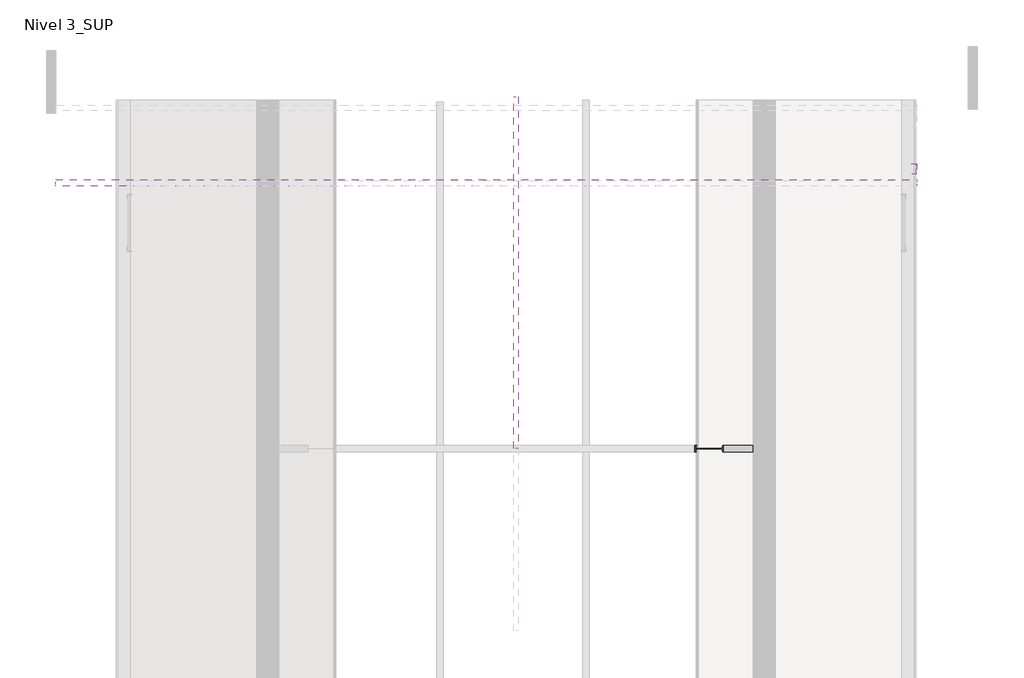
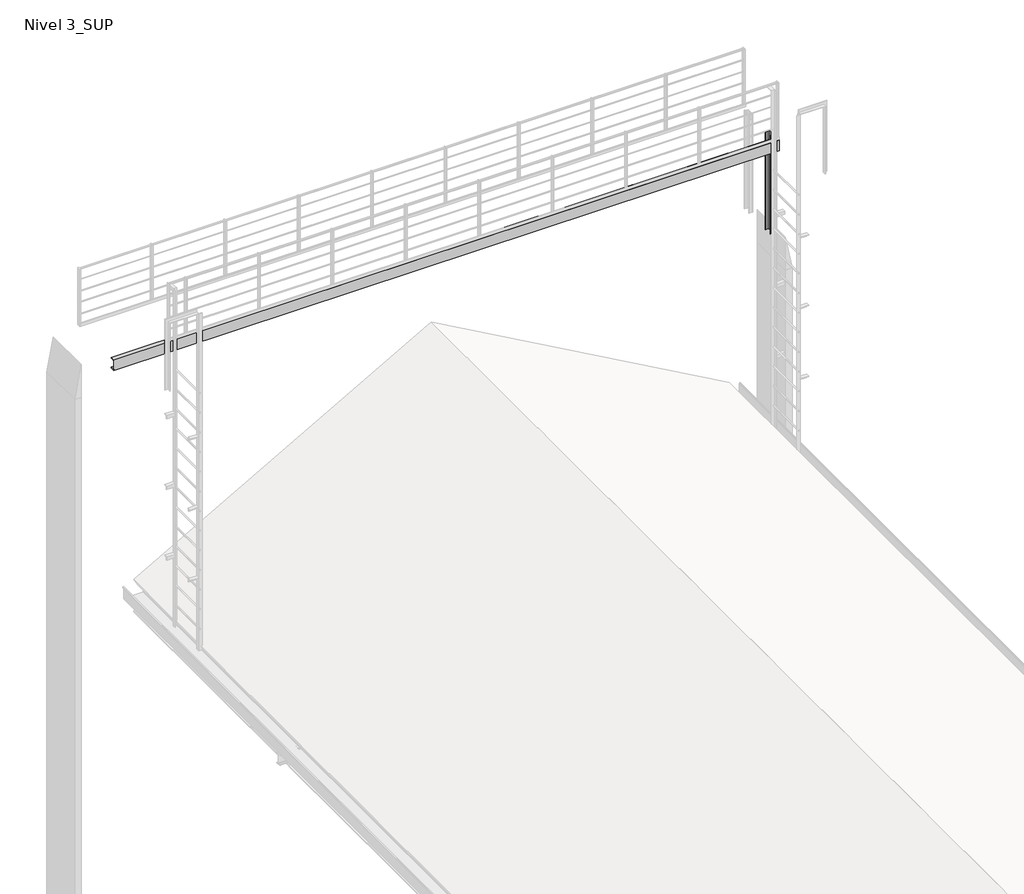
# One storey, part 9 of 10: 4 beams, 1 column.
"""IFC4 building model written with IfcOpenShell, lengths in millimetres."""

from ifc_helpers import new_model, si_unit, point, frame, frame_2d, origin, place, context, project, spatial, polyline, circle_curve, ellipse_curve, trimmed, segment, composite_curve, outline, extrude, transform, mapped, element, save
from ifc_brep_helpers import plane_surface, cylinder_surface, revolved_surface, advanced_brep
from components import madera_50x50mm_8a6b8b44, upe160_38f508eb

model = new_model("IFC4")

# Units and contexts
model_context = context("Model", 3, world=origin())
ifc_project = project(units=[si_unit("LENGTHUNIT", "METRE", prefix="MILLI")], contexts=[model_context])

# Site, building, storey
site = spatial("IfcSite", under=ifc_project)
building = spatial("IfcBuilding", under=site)
storey = spatial("IfcBuildingStorey", under=building, Name="Nivel 3_SUP", Elevation=13230.0)

# Beams
placement = place(None, origin())
element("IfcBeam", 1, ObjectType="IPN - Secciones en I con alas cónicas : IPN 160", at=placement, inside=storey, context=model_context, shape_type="AdvancedBrep", body=[
    advanced_brep(
    [(10494.5684321, 9814.6072273, 15557.5050493), (10496.3415234, 9814.6072273, 15560.6437982), (10498.1925032, 9817.8803655, 15563.9204261), (10499.9243319, 9843.0307088, 15566.9861314), (10502.9930614, 9848.4572273, 15572.4184356), (10494.5684321, 9848.4572273, 15557.5050493), (10569.87885, 9814.6072273, 15514.9619045), (10569.87885, 9814.6072273, 15519.1022796), (10566.1155514, 9817.8803655, 15525.5504349), (10562.5945033, 9843.0307088, 15531.5835105), (10556.3553503, 9848.4572273, 15542.2738734), (10556.3553503, 9848.4572273, 15522.6013815), (10562.5945033, 9843.0307088, 15519.07686), (10566.1155514, 9817.8803655, 15517.0878064)],
    [
        (0, 1),
        (1, 2, circle_curve(frame((10496.3415234, 9818.4072273, 15560.6437982), z_axis=(-0.8706797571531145, 0.0, 0.49185034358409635), x_axis=(0.0, 1.0, 0.0)), 3.8)),
        (2, 3),
        (3, 4, circle_curve(frame((10502.9930614, 9842.1572273, 15572.4184356), z_axis=(0.8706797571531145, 0.0, -0.49185034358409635), x_axis=(0.0, 1.0, 0.0)), 6.3)),
        (4, 5),
        (5, 0),
        (0, 6),
        (6, 7),
        (7, 1),
        (7, 8, ellipse_curve(frame((10569.87885, 9818.4072273, 15519.1022796), z_axis=(-0.8636695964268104, 0.0, -0.5040583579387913), x_axis=(-0.5040583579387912, 0.0, 0.8636695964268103)), 7.5388096, 3.8)),
        (8, 2),
        (8, 9),
        (9, 3),
        (9, 10, ellipse_curve(frame((10556.3553503, 9842.1572273, 15542.2738734), z_axis=(0.8636695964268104, 0.0, 0.5040583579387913), x_axis=(0.5040583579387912, 0.0, -0.8636695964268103)), 12.4985528, 6.3)),
        (10, 4),
        (5, 11),
        (11, 12, ellipse_curve(frame((10556.3553503, 9842.1572273, 15522.6013815), z_axis=(-0.49185034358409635, 0.0, -0.8706797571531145), x_axis=(-0.8706797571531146, 0.0, 0.49185034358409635)), 7.2357258, 6.3)),
        (12, 13),
        (13, 6, ellipse_curve(frame((10569.87885, 9818.4072273, 15514.9619045), z_axis=(0.49185034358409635, 0.0, 0.8706797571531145), x_axis=(0.8706797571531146, 0.0, -0.49185034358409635)), 4.3644061, 3.8)),
        (13, 8),
        (12, 9),
        (11, 10),
    ],
    [
        plane_surface(frame((10533.9164596, 9851.6072273, 15627.1594298), z_axis=(-0.8706797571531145, 0.0, 0.4918503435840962), x_axis=(0.4918503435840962, 0.0, 0.8706797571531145))),
        plane_surface(frame((10494.5684321, 9814.6072273, 15557.5050493), z_axis=(0.0, -1.0, 0.0), x_axis=(0.8706797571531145, 0.0, -0.49185034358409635))),
        cylinder_surface(frame((10496.3415234, 9818.4072273, 15560.6437982), z_axis=(-0.8706797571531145, 0.0, 0.49185034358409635), x_axis=(0.0, 1.0, 0.0)), 3.8),
        plane_surface(frame((10499.2410104, 9833.1072273, 15565.776507), z_axis=(0.48709992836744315, -0.13864784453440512, 0.8622705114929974), x_axis=(0.8706797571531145, 0.0, -0.49185034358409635))),
        revolved_surface(polyline([(10565.75400744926, 9848.4572273, 15536.964535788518), (10502.9930614, 9848.4572273, 15572.4184356)]), (10502.9930614, 9842.1572273, 15572.4184356), (0.8706797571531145, 0.0, -0.49185034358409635)),
        plane_surface(frame((10494.5684321, 9888.6072273, 15557.5050493), z_axis=(-0.49185034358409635, 0.0, -0.8706797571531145), x_axis=(0.8706797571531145, 0.0, -0.49185034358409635))),
        revolved_surface(polyline([(10569.87885, 9814.6072273, 15512.591238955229), (10569.87885, 9814.6072273, 15525.61332024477)]), (10569.87885, 9818.4072273, 14544.0), (0.0, 0.0, -1.0)),
        plane_surface(frame((10566.1155514, 9817.8803655, 13390.0), z_axis=(0.9903417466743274, 0.1386478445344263, 0.0), x_axis=(0.0, 0.0, 1.0))),
        cylinder_surface(frame((10556.3553503, 9842.1572273, 14544.0), z_axis=(0.0, 0.0, 1.0), x_axis=(0.0, -1.0, 0.0)), 6.3),
        plane_surface(frame((10556.3553503, 9848.4572273, 13390.0), z_axis=(0.0, 1.0, 0.0), x_axis=(0.0, 0.0, 1.0))),
    ],
    [
        (0, [[1, 2, 3, 4, 5, 6]]),
        (1, [[-1, 7, 8, 9]]),
        (2, [[-2, -9, 10, 11]]),
        (3, [[-3, -11, 12, 13]]),
        (4, [[-4, -13, 14, 15]]),
        (5, [[-6, 16, 17, 18, 19, -7]]),
        (6, [[20, -10, -8, -19]]),
        (7, [[-20, -18, 21, -12]]),
        (8, [[-21, -17, 22, -14]]),
        (9, [[-22, -16, -5, -15]]),
    ],
),
    advanced_brep(
    [(14596.3407681, 9888.6072273, 13240.3980806), (14598.1138594, 9888.6072273, 13243.5368296), (14599.9648391, 9885.3340891, 13246.8134575), (14601.6966678, 9860.1837459, 13249.8791628), (14604.7653974, 9854.7572273, 13255.311467), (14600.1427742, 9854.7572273, 13247.1284404), (14596.6182526, 9860.1837459, 13240.8892874), (14596.3407681, 9863.6923656, 13240.3980806), (14345.2243974, 9888.6072273, 13386.3950593), (14359.537545, 9885.3340891, 13382.6317607), (14372.9293285, 9860.1837459, 13379.1107126), (14396.6590206, 9854.7572273, 13372.8715596), (14337.8950527, 9888.6072273, 13386.3950593), (14595.4712276, 9860.1837459, 13240.8892874), (14584.4265993, 9854.7572273, 13247.1284404), (14361.8345245, 9854.7572273, 13372.8715596), (14350.7898962, 9860.1837459, 13379.1107126), (14344.556892, 9885.3340891, 13382.6317607)],
    [
        (0, 1),
        (1, 2, circle_curve(frame((14598.1138594, 9884.8072273, 13243.5368296), z_axis=(0.8706797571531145, 0.0, -0.49185034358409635), x_axis=(0.0, 1.0, 0.0)), 3.8)),
        (2, 3),
        (3, 4, circle_curve(frame((14604.7653974, 9861.0572273, 13255.311467), z_axis=(-0.8706797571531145, 0.0, 0.49185034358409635), x_axis=(0.0, 1.0, 0.0)), 6.3)),
        (4, 5),
        (5, 6, ellipse_curve(frame((14600.1427742, 9861.0572273, 13247.1284404), z_axis=(0.8706797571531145, 0.0, -0.4918503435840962), x_axis=(0.4918503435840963, 0.0, 0.8706797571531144)), 7.2357258, 6.3)),
        (6, 7),
        (7, 0),
        (1, 8),
        (8, 9, ellipse_curve(frame((14345.2243974, 9884.8072273, 13386.3950593), z_axis=(-0.25428354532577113, 0.0, -0.9671297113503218), x_axis=(-0.9671297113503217, 0.0, 0.2542835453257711)), 14.9439477, 3.8)),
        (9, 2),
        (3, 10),
        (10, 11, ellipse_curve(frame((14396.6590206, 9861.0572273, 13372.8715596), z_axis=(0.25428354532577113, 0.0, 0.9671297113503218), x_axis=(0.9671297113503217, 0.0, -0.2542835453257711)), 24.7754922, 6.3)),
        (11, 4),
        (9, 10),
        (0, 12),
        (12, 8),
        (7, 13),
        (13, 14, ellipse_curve(frame((14584.4265993, 9861.0572273, 13247.1284404), z_axis=(-0.49185034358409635, 0.0, -0.8706797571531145), x_axis=(0.8706797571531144, 0.0, -0.4918503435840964)), 12.8087742, 6.3)),
        (14, 15),
        (15, 16, ellipse_curve(frame((14361.8345245, 9861.0572273, 13372.8715596), z_axis=(-0.49185034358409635, 0.0, -0.8706797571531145), x_axis=(0.8706797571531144, 0.0, -0.4918503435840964)), 12.8087742, 6.3)),
        (16, 17),
        (17, 12, ellipse_curve(frame((14337.8950527, 9884.8072273, 13386.3950593), z_axis=(0.49185034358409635, 0.0, 0.8706797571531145), x_axis=(-0.8706797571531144, 0.0, 0.4918503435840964)), 7.7259273, 3.8)),
        (9, 17),
        (16, 10),
        (15, 11),
        (14, 5),
        (13, 6),
    ],
    [
        plane_surface(frame((14635.6887956, 9851.6072273, 13310.0524612), z_axis=(0.8706797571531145, 0.0, -0.4918503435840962), x_axis=(0.4918503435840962, 0.0, 0.8706797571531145))),
        cylinder_surface(frame((10496.3415234, 9884.8072273, 15560.6437982), z_axis=(-0.8706797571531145, 0.0, 0.49185034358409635), x_axis=(0.0, 1.0, 0.0)), 3.8),
        revolved_surface(polyline([(14604.765397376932, 9867.357227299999, 13255.311466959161), (14375.796563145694, 9867.357227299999, 13384.656842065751)]), (10502.9930614, 9861.0572273, 15572.4184356), (0.8706797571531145, 0.0, -0.49185034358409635)),
        plane_surface(frame((10499.2410104, 9870.1072273, 15565.776507), z_axis=(0.48709992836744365, 0.13864784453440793, 0.8622705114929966), x_axis=(0.8706797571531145, 0.0, -0.49185034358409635))),
        plane_surface(frame((10496.3415234, 9888.6072273, 15560.6437982), z_axis=(0.0, 1.0, 0.0), x_axis=(0.8706797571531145, 0.0, -0.49185034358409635))),
        plane_surface(frame((10494.5684321, 9888.6072273, 15557.5050493), z_axis=(-0.49185034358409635, 0.0, -0.8706797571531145), x_axis=(0.8706797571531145, 0.0, -0.49185034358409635))),
        plane_surface(frame((6033.4837907, 9885.3340891, 13382.6317607), z_axis=(0.0, -0.13864784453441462, 0.9903417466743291), x_axis=(1.0, 0.0, 0.0))),
        cylinder_surface(frame((10483.0206567, 9861.0572273, 13372.8715596), z_axis=(1.0, 0.0, 0.0), x_axis=(0.0, 1.0, 0.0)), 6.3),
        plane_surface(frame((6033.4837907, 9854.7572273, 13372.8715596), z_axis=(0.0, -1.0, 0.0), x_axis=(1.0, 0.0, 0.0))),
        cylinder_surface(frame((10483.0206567, 9861.0572273, 13247.1284404), z_axis=(1.0, 0.0, 0.0), x_axis=(0.0, 1.0, 0.0)), 6.3),
        plane_surface(frame((6033.4837907, 9860.1837459, 13240.8892874), z_axis=(0.0, -0.13864784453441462, -0.9903417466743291), x_axis=(1.0, 0.0, 0.0))),
        revolved_surface(polyline([(14330.771661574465, 9888.607227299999, 13386.3950593), (14359.677133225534, 9888.607227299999, 13386.3950593)]), (10483.0206567, 9884.8072273, 13386.3950593), (-1.0, 0.0, 0.0)),
    ],
    [
        (0, [[1, 2, 3, 4, 5, 6, 7, 8]]),
        (1, [[-2, 9, 10, 11]]),
        (2, [[-4, 12, 13, 14]]),
        (3, [[-3, -11, 15, -12]]),
        (4, [[-1, 16, 17, -9]]),
        (5, [[-8, 18, 19, 20, 21, 22, 23, -16]]),
        (6, [[24, -22, 25, -15]]),
        (7, [[-25, -21, 26, -13]]),
        (8, [[-26, -20, 27, -5, -14]]),
        (9, [[-27, -19, 28, -6]]),
        (10, [[-28, -18, -7]]),
        (11, [[-24, -10, -17, -23]]),
    ],
),
    advanced_brep(
    [(10573.4837907, 9888.6072273, 15692.5495499), (10573.4837907, 9888.6072273, 15696.6899249), (14656.815743, 9888.6072273, 13390.0), (14649.4863983, 9888.6072273, 13390.0), (10573.4837907, 9860.1837459, 15684.1832745), (10573.4837907, 9885.3340891, 15688.2272964), (14641.8350899, 9885.3340891, 13390.0), (14634.6763106, 9860.1837459, 13390.0), (10573.4837907, 9854.7572273, 15677.0174331), (14621.9912468, 9854.7572273, 13390.0), (10573.4837907, 9854.7572273, 15532.5979515), (14366.3380368, 9854.7572273, 13390.0), (10573.4837907, 9848.4572273, 15677.0174331), (10573.4837907, 9848.4572273, 15532.5979515), (14366.3380368, 9848.4572273, 13390.0), (14621.9912468, 9848.4572273, 13390.0), (10573.4837907, 9843.0307088, 15684.1832745), (14634.6763106, 9843.0307088, 13390.0), (10573.4837907, 9817.8803655, 15688.2272964), (14641.8350899, 9817.8803655, 13390.0), (10573.4837907, 9814.6072273, 15696.6899249), (10573.4837907, 9814.6072273, 15692.5495499), (14649.4863983, 9814.6072273, 13390.0), (14656.815743, 9814.6072273, 13390.0), (10573.4837907, 9860.1837459, 15525.4321101), (14353.6529729, 9860.1837459, 13390.0), (10573.4837907, 9885.3340891, 15521.3880882), (14346.4941937, 9885.3340891, 13390.0), (10573.4837907, 9888.6072273, 15512.9254597), (10573.4837907, 9888.6072273, 15517.0658347), (14338.8428853, 9888.6072273, 13390.0), (14331.5135406, 9888.6072273, 13390.0), (10573.4837907, 9814.6072273, 15512.9254597), (14331.5135406, 9814.6072273, 13390.0), (10573.4837907, 9814.6072273, 15517.0658347), (14338.8428853, 9814.6072273, 13390.0), (10573.4837907, 9843.0307088, 15525.4321101), (10573.4837907, 9817.8803655, 15521.3880882), (14346.4941937, 9817.8803655, 13390.0), (14353.6529729, 9843.0307088, 13390.0)],
    [
        (0, 1),
        (1, 2),
        (2, 3),
        (3, 0),
        (4, 5),
        (5, 6),
        (6, 7),
        (7, 4),
        (8, 4, ellipse_curve(frame((10573.4837907, 9861.0572273, 15677.0174331), z_axis=(-1.0, 0.0, 0.0), x_axis=(0.0, 0.0, -1.0)), 7.2357258, 6.3)),
        (7, 9, ellipse_curve(frame((14621.9912468, 9861.0572273, 13390.0), z_axis=(0.0, 0.0, -1.0), x_axis=(1.0, 0.0, 0.0)), 12.8087742, 6.3)),
        (9, 8),
        (10, 8),
        (9, 11),
        (11, 10),
        (12, 13),
        (13, 14),
        (14, 15),
        (15, 12),
        (16, 12, ellipse_curve(frame((10573.4837907, 9842.1572273, 15677.0174331), z_axis=(-1.0, 0.0, 0.0), x_axis=(0.0, 0.0, -1.0)), 7.2357258, 6.3)),
        (15, 17, ellipse_curve(frame((14621.9912468, 9842.1572273, 13390.0), z_axis=(0.0, 0.0, -1.0), x_axis=(1.0, 0.0, 0.0)), 12.8087742, 6.3)),
        (17, 16),
        (18, 16),
        (17, 19),
        (19, 18),
        (20, 21),
        (21, 22),
        (22, 23),
        (23, 20),
        (1, 20),
        (23, 2),
        (24, 10, ellipse_curve(frame((10573.4837907, 9861.0572273, 15532.5979515), z_axis=(-1.0, 0.0, 0.0), x_axis=(0.0, 0.0, -1.0)), 7.2357258, 6.3)),
        (11, 25, ellipse_curve(frame((14366.3380368, 9861.0572273, 13390.0), z_axis=(0.0, 0.0, -1.0), x_axis=(1.0, 0.0, 0.0)), 12.8087742, 6.3)),
        (25, 24),
        (26, 24),
        (25, 27),
        (27, 26),
        (28, 29),
        (29, 30),
        (30, 31),
        (31, 28),
        (32, 28),
        (31, 33),
        (33, 32),
        (34, 32),
        (33, 35),
        (35, 34),
        (36, 37),
        (37, 38),
        (38, 39),
        (39, 36),
        (13, 36, ellipse_curve(frame((10573.4837907, 9842.1572273, 15532.5979515), z_axis=(-1.0, 0.0, 0.0), x_axis=(0.0, 0.0, -1.0)), 7.2357258, 6.3)),
        (39, 14, ellipse_curve(frame((14366.3380368, 9842.1572273, 13390.0), z_axis=(0.0, 0.0, -1.0), x_axis=(1.0, 0.0, 0.0)), 12.8087742, 6.3)),
        (5, 0, ellipse_curve(frame((10573.4837907, 9884.8072273, 15692.5495499), z_axis=(1.0, 0.0, 0.0), x_axis=(0.0, 0.0, 1.0)), 4.3644061, 3.8)),
        (3, 6, ellipse_curve(frame((14649.4863983, 9884.8072273, 13390.0), z_axis=(0.0, 0.0, 1.0), x_axis=(-1.0, 0.0, 0.0)), 7.7259273, 3.8)),
        (21, 18, ellipse_curve(frame((10573.4837907, 9818.4072273, 15692.5495499), z_axis=(1.0, 0.0, 0.0), x_axis=(0.0, 0.0, 1.0)), 4.3644061, 3.8)),
        (19, 22, ellipse_curve(frame((14649.4863983, 9818.4072273, 13390.0), z_axis=(0.0, 0.0, 1.0), x_axis=(-1.0, 0.0, 0.0)), 7.7259273, 3.8)),
        (29, 26, ellipse_curve(frame((10573.4837907, 9884.8072273, 15517.0658347), z_axis=(1.0, 0.0, 0.0), x_axis=(0.0, 0.0, 1.0)), 4.3644061, 3.8)),
        (27, 30, ellipse_curve(frame((14338.8428853, 9884.8072273, 13390.0), z_axis=(0.0, 0.0, 1.0), x_axis=(-1.0, 0.0, 0.0)), 7.7259273, 3.8)),
        (37, 34, ellipse_curve(frame((10573.4837907, 9818.4072273, 15517.0658347), z_axis=(1.0, 0.0, 0.0), x_axis=(0.0, 0.0, 1.0)), 4.3644061, 3.8)),
        (35, 38, ellipse_curve(frame((14338.8428853, 9818.4072273, 13390.0), z_axis=(0.0, 0.0, 1.0), x_axis=(-1.0, 0.0, 0.0)), 7.7259273, 3.8)),
    ],
    [
        plane_surface(frame((10573.2644871, 9888.6072273, 15696.8138104), z_axis=(0.0, 1.0, 0.0), x_axis=(0.8706797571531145, 0.0, -0.49185034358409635))),
        plane_surface(frame((10568.5919088, 9870.1072273, 15688.5423527), z_axis=(-0.4870999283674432, 0.13864784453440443, -0.8622705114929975), x_axis=(0.8706797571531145, 0.0, -0.49185034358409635))),
        revolved_surface(polyline([(14631.70136385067, 9867.357227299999, 13384.51471755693), (10570.385133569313, 9867.357227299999, 15678.767876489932)]), (10564.8398578, 9861.0572273, 15681.9004241), (0.8706797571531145, 0.0, -0.49185034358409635)),
        plane_surface(frame((10564.8398578, 9854.7572273, 15681.9004241), z_axis=(0.0, 1.0, 0.0), x_axis=(0.8706797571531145, 0.0, -0.49185034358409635))),
        plane_surface(frame((10502.9930614, 9848.4572273, 15572.4184356), z_axis=(0.0, -1.0, 0.0), x_axis=(0.8706797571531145, 0.0, -0.49185034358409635))),
        revolved_surface(polyline([(14631.70136385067, 9848.4572273, 13384.51471755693), (10570.385133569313, 9848.4572273, 15678.767876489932)]), (10564.8398578, 9842.1572273, 15681.9004241), (0.8706797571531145, 0.0, -0.49185034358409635)),
        plane_surface(frame((10568.5919088, 9833.1072273, 15688.5423527), z_axis=(-0.48709992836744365, -0.13864784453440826, -0.8622705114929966), x_axis=(0.8706797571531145, 0.0, -0.49185034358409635))),
        plane_surface(frame((10571.4913958, 9814.6072273, 15693.6750615), z_axis=(0.0, -1.0, 0.0), x_axis=(0.8706797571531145, 0.0, -0.49185034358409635))),
        plane_surface(frame((10573.2644871, 9814.6072273, 15696.8138104), z_axis=(0.49185034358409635, 0.0, 0.8706797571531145), x_axis=(0.8706797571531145, 0.0, -0.49185034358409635))),
        revolved_surface(polyline([(14376.048153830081, 9867.357227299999, 13384.514717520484), (10570.385133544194, 9867.357227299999, 15534.348394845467)]), (10502.9930614, 9861.0572273, 15572.4184356), (0.8706797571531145, 0.0, -0.49185034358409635)),
        plane_surface(frame((10499.2410104, 9870.1072273, 15565.776507), z_axis=(0.48709992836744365, 0.13864784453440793, 0.8622705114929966), x_axis=(0.8706797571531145, 0.0, -0.49185034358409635))),
        plane_surface(frame((10496.3415234, 9888.6072273, 15560.6437982), z_axis=(0.0, 1.0, 0.0), x_axis=(0.8706797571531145, 0.0, -0.49185034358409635))),
        plane_surface(frame((10494.5684321, 9888.6072273, 15557.5050493), z_axis=(-0.49185034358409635, 0.0, -0.8706797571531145), x_axis=(0.8706797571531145, 0.0, -0.49185034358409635))),
        plane_surface(frame((10494.5684321, 9814.6072273, 15557.5050493), z_axis=(0.0, -1.0, 0.0), x_axis=(0.8706797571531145, 0.0, -0.49185034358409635))),
        plane_surface(frame((10499.2410104, 9833.1072273, 15565.776507), z_axis=(0.48709992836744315, -0.13864784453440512, 0.8622705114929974), x_axis=(0.8706797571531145, 0.0, -0.49185034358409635))),
        revolved_surface(polyline([(14376.048153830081, 9848.4572273, 13384.514717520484), (10570.385133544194, 9848.4572273, 15534.348394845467)]), (10502.9930614, 9842.1572273, 15572.4184356), (0.8706797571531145, 0.0, -0.49185034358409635)),
        cylinder_surface(frame((10571.4913958, 9884.8072273, 15693.6750615), z_axis=(-0.8706797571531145, 0.0, 0.49185034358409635), x_axis=(0.0, 1.0, 0.0)), 3.8),
        cylinder_surface(frame((10571.4913958, 9818.4072273, 15693.6750615), z_axis=(-0.8706797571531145, 0.0, 0.49185034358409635), x_axis=(0.0, 1.0, 0.0)), 3.8),
        cylinder_surface(frame((10496.3415234, 9884.8072273, 15560.6437982), z_axis=(-0.8706797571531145, 0.0, 0.49185034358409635), x_axis=(0.0, 1.0, 0.0)), 3.8),
        cylinder_surface(frame((10496.3415234, 9818.4072273, 15560.6437982), z_axis=(-0.8706797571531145, 0.0, 0.49185034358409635), x_axis=(0.0, 1.0, 0.0)), 3.8),
        plane_surface(frame((10573.4837907, 9888.6072273, 13390.0), z_axis=(-1.0, 0.0, 0.0), x_axis=(0.0, 0.0, 1.0))),
        plane_surface(frame((6033.4837907, 9814.6072273, 13390.0), z_axis=(0.0, 0.0, -1.0), x_axis=(1.0, 0.0, 0.0))),
    ],
    [
        (0, [[1, 2, 3, 4]]),
        (1, [[5, 6, 7, 8]]),
        (2, [[9, -8, 10, 11]]),
        (3, [[12, -11, 13, 14]]),
        (4, [[15, 16, 17, 18]]),
        (5, [[19, -18, 20, 21]]),
        (6, [[22, -21, 23, 24]]),
        (7, [[25, 26, 27, 28]]),
        (8, [[29, -28, 30, -2]]),
        (9, [[31, -14, 32, 33]]),
        (10, [[34, -33, 35, 36]]),
        (11, [[37, 38, 39, 40]]),
        (12, [[41, -40, 42, 43]]),
        (13, [[44, -43, 45, 46]]),
        (14, [[47, 48, 49, 50]]),
        (15, [[51, -50, 52, -16]]),
        (16, [[53, -4, 54, -6]]),
        (17, [[55, -24, 56, -26]]),
        (18, [[57, -36, 58, -38]]),
        (19, [[59, -46, 60, -48]]),
        (20, [[-1, -53, -5, -9, -12, -31, -34, -57, -37, -41, -44, -59, -47, -51, -15, -19, -22, -55, -25, -29]]),
        (21, [[-3, -30, -27, -56, -23, -20, -17, -52, -49, -60, -45, -42, -39, -58, -35, -32, -13, -10, -7, -54]]),
    ],
),
    advanced_brep(
    [(14673.2637317, 9888.6072273, 13376.5680929), (14671.412752, 9885.3340891, 13373.2914649), (14654.8784413, 9885.3340891, 13382.6317607), (14655.8679103, 9888.6072273, 13386.3950593), (14666.6121937, 9854.7572273, 13364.7934555), (14669.6809233, 9860.1837459, 13370.2257597), (14675.036823, 9888.6072273, 13379.7068418), (14675.036823, 9864.4418116, 13379.7068418), (14674.7000674, 9860.1837459, 13379.1107126), (14671.1755458, 9854.7572273, 13372.8715596), (14663.197255, 9888.6072273, 13386.3950593), (14653.9526662, 9860.1837459, 13379.1107126), (14652.3122307, 9854.7572273, 13372.8715596), (14669.8590943, 9885.3340891, 13382.6317607)],
    [
        (0, 1, circle_curve(frame((14673.2637317, 9884.8072273, 13376.5680929), z_axis=(-0.8706797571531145, 0.0, 0.49185034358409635), x_axis=(0.0, 1.0, 0.0)), 3.8)),
        (1, 2),
        (2, 3, ellipse_curve(frame((14655.8679103, 9884.8072273, 13386.3950593), z_axis=(0.9671297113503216, 0.0, -0.2542835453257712), x_axis=(0.25428354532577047, 0.0, 0.9671297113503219)), 3.9291524, 3.8)),
        (3, 0),
        (4, 5, circle_curve(frame((14666.6121937, 9861.0572273, 13364.7934555), z_axis=(-0.8706797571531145, 0.0, 0.49185034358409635), x_axis=(0.0, 1.0, 0.0)), 6.3)),
        (5, 1),
        (0, 6),
        (6, 7),
        (7, 8),
        (8, 9, ellipse_curve(frame((14671.1755458, 9861.0572273, 13372.8715596), z_axis=(0.8706797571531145, 0.0, -0.4918503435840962), x_axis=(0.4918503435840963, 0.0, 0.8706797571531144)), 7.2357258, 6.3)),
        (9, 4),
        (3, 10),
        (10, 6),
        (5, 11),
        (11, 2),
        (4, 12),
        (12, 11, ellipse_curve(frame((14652.3122307, 9861.0572273, 13372.8715596), z_axis=(-0.9671297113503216, 0.0, 0.2542835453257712), x_axis=(-0.25428354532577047, 0.0, -0.9671297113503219)), 6.514121, 6.3)),
        (10, 13, ellipse_curve(frame((14663.197255, 9884.8072273, 13386.3950593), z_axis=(-0.49185034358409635, 0.0, -0.8706797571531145), x_axis=(-0.8706797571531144, 0.0, 0.4918503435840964)), 7.7259273, 3.8)),
        (13, 7),
        (2, 13),
        (11, 8),
        (12, 9),
    ],
    [
        cylinder_surface(frame((10571.4913958, 9884.8072273, 15693.6750615), z_axis=(-0.8706797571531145, 0.0, 0.49185034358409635), x_axis=(0.0, 1.0, 0.0)), 3.8),
        plane_surface(frame((14635.6887956, 9851.6072273, 13310.0524612), z_axis=(0.8706797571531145, 0.0, -0.4918503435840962), x_axis=(0.4918503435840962, 0.0, 0.8706797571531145))),
        plane_surface(frame((10573.2644871, 9888.6072273, 15696.8138104), z_axis=(0.0, 1.0, 0.0), x_axis=(0.8706797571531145, 0.0, -0.49185034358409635))),
        plane_surface(frame((10568.5919088, 9870.1072273, 15688.5423527), z_axis=(-0.4870999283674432, 0.13864784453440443, -0.8622705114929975), x_axis=(0.8706797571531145, 0.0, -0.49185034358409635))),
        revolved_surface(polyline([(14666.612193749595, 9867.357227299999, 13364.793455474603), (14650.870007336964, 9867.357227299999, 13373.68627712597)]), (10564.8398578, 9861.0572273, 15681.9004241), (0.8706797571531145, 0.0, -0.49185034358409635)),
        plane_surface(frame((10573.2644871, 9814.6072273, 15696.8138104), z_axis=(0.49185034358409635, 0.0, 0.8706797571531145), x_axis=(0.8706797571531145, 0.0, -0.49185034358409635))),
        revolved_surface(polyline([(14654.868791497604, 9888.607227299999, 13386.3950593), (14669.924063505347, 9888.607227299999, 13386.3950593)]), (10483.0206567, 9884.8072273, 13386.3950593), (-1.0, 0.0, 0.0)),
        plane_surface(frame((6033.4837907, 9885.3340891, 13382.6317607), z_axis=(0.0, -0.13864784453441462, 0.9903417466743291), x_axis=(1.0, 0.0, 0.0))),
        cylinder_surface(frame((10483.0206567, 9861.0572273, 13372.8715596), z_axis=(1.0, 0.0, 0.0), x_axis=(0.0, 1.0, 0.0)), 6.3),
        plane_surface(frame((6033.4837907, 9854.7572273, 13372.8715596), z_axis=(0.0, -1.0, 0.0), x_axis=(1.0, 0.0, 0.0))),
    ],
    [
        (0, [[1, 2, 3, 4]]),
        (1, [[5, 6, -1, 7, 8, 9, 10, 11]]),
        (2, [[-7, -4, 12, 13]]),
        (3, [[-6, 14, 15, -2]]),
        (4, [[-5, 16, 17, -14]]),
        (5, [[-8, -13, 18, 19]]),
        (6, [[20, -18, -12, -3]]),
        (7, [[-20, -15, 21, -9, -19]]),
        (8, [[-21, -17, 22, -10]]),
        (9, [[-22, -16, -11]]),
    ],
),
    advanced_brep(
    [(10499.9243319, 9860.1837459, 15566.9861314), (10502.9930614, 9854.7572273, 15572.4184356), (10556.3553503, 9854.7572273, 15542.2738734), (10562.5945033, 9860.1837459, 15531.5835105), (10498.1925032, 9885.3340891, 15563.9204261), (10566.1155514, 9885.3340891, 15525.5504349), (10496.3415234, 9888.6072273, 15560.6437982), (10569.87885, 9888.6072273, 15519.1022796), (10494.5684321, 9888.6072273, 15557.5050493), (10569.87885, 9888.6072273, 15514.9619045), (10494.5684321, 9854.7572273, 15557.5050493), (10566.1155514, 9885.3340891, 15517.0878064), (10562.5945033, 9860.1837459, 15519.07686), (10556.3553503, 9854.7572273, 15522.6013815)],
    [
        (0, 1, circle_curve(frame((10502.9930614, 9861.0572273, 15572.4184356), z_axis=(-0.8706797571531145, 0.0, 0.49185034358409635), x_axis=(0.0, 1.0, 0.0)), 6.3)),
        (1, 2),
        (2, 3, ellipse_curve(frame((10556.3553503, 9861.0572273, 15542.2738734), z_axis=(0.8636695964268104, 0.0, 0.5040583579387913), x_axis=(0.5040583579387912, 0.0, -0.8636695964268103)), 12.4985528, 6.3)),
        (3, 0),
        (4, 0),
        (3, 5),
        (5, 4),
        (6, 4, circle_curve(frame((10496.3415234, 9884.8072273, 15560.6437982), z_axis=(0.8706797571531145, 0.0, -0.49185034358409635), x_axis=(0.0, 1.0, 0.0)), 3.8)),
        (5, 7, ellipse_curve(frame((10569.87885, 9884.8072273, 15519.1022796), z_axis=(-0.8636695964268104, 0.0, -0.5040583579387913), x_axis=(-0.5040583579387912, 0.0, 0.8636695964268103)), 7.5388096, 3.8)),
        (7, 6),
        (8, 6),
        (7, 9),
        (9, 8),
        (10, 8),
        (9, 11, ellipse_curve(frame((10569.87885, 9884.8072273, 15514.9619045), z_axis=(0.49185034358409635, 0.0, 0.8706797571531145), x_axis=(0.8706797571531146, 0.0, -0.49185034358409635)), 4.3644061, 3.8)),
        (11, 12),
        (12, 13, ellipse_curve(frame((10556.3553503, 9861.0572273, 15522.6013815), z_axis=(-0.49185034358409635, 0.0, -0.8706797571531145), x_axis=(-0.8706797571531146, 0.0, 0.49185034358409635)), 7.2357258, 6.3)),
        (13, 10),
        (10, 1),
        (13, 2),
        (12, 3),
        (11, 5),
    ],
    [
        revolved_surface(polyline([(10565.75400744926, 9867.357227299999, 15536.964535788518), (10502.9930614, 9867.357227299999, 15572.4184356)]), (10502.9930614, 9861.0572273, 15572.4184356), (0.8706797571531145, 0.0, -0.49185034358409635)),
        plane_surface(frame((10499.2410104, 9870.1072273, 15565.776507), z_axis=(0.48709992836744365, 0.13864784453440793, 0.8622705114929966), x_axis=(0.8706797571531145, 0.0, -0.49185034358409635))),
        cylinder_surface(frame((10496.3415234, 9884.8072273, 15560.6437982), z_axis=(-0.8706797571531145, 0.0, 0.49185034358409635), x_axis=(0.0, 1.0, 0.0)), 3.8),
        plane_surface(frame((10496.3415234, 9888.6072273, 15560.6437982), z_axis=(0.0, 1.0, 0.0), x_axis=(0.8706797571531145, 0.0, -0.49185034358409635))),
        plane_surface(frame((10494.5684321, 9888.6072273, 15557.5050493), z_axis=(-0.49185034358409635, 0.0, -0.8706797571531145), x_axis=(0.8706797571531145, 0.0, -0.49185034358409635))),
        plane_surface(frame((10533.9164596, 9851.6072273, 15627.1594298), z_axis=(-0.8706797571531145, 0.0, 0.4918503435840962), x_axis=(0.4918503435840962, 0.0, 0.8706797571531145))),
        plane_surface(frame((10430.6122311, 9854.7572273, 13390.0), z_axis=(0.0, -1.0, 0.0), x_axis=(0.0, 0.0, 1.0))),
        cylinder_surface(frame((10556.3553503, 9861.0572273, 14544.0), z_axis=(0.0, 0.0, 1.0), x_axis=(0.0, -1.0, 0.0)), 6.3),
        plane_surface(frame((10562.5945033, 9860.1837459, 13390.0), z_axis=(0.9903417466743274, -0.1386478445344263, 0.0), x_axis=(0.0, 0.0, 1.0))),
        revolved_surface(polyline([(10569.87885, 9881.0072273, 15512.591238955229), (10569.87885, 9881.0072273, 15525.61332024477)]), (10569.87885, 9884.8072273, 14544.0), (0.0, 0.0, -1.0)),
    ],
    [
        (0, [[1, 2, 3, 4]]),
        (1, [[5, -4, 6, 7]]),
        (2, [[8, -7, 9, 10]]),
        (3, [[11, -10, 12, 13]]),
        (4, [[14, -13, 15, 16, 17, 18]]),
        (5, [[-1, -5, -8, -11, -14, 19]]),
        (6, [[20, -2, -19, -18]]),
        (7, [[-20, -17, 21, -3]]),
        (8, [[-21, -16, 22, -6]]),
        (9, [[-22, -15, -12, -9]]),
    ],
),
    advanced_brep(
    [(14671.412752, 9817.8803655, 13373.2914649), (14673.2637317, 9814.6072273, 13376.5680929), (14655.8679103, 9814.6072273, 13386.3950593), (14654.8784413, 9817.8803655, 13382.6317607), (14675.036823, 9814.6072273, 13379.7068418), (14669.6809233, 9843.0307088, 13370.2257597), (14666.6121937, 9848.4572273, 13364.7934555), (14671.1755458, 9848.4572273, 13372.8715596), (14674.7000674, 9843.0307088, 13379.1107126), (14675.036823, 9838.7726431, 13379.7068418), (14653.9526662, 9843.0307088, 13379.1107126), (14652.3122307, 9848.4572273, 13372.8715596), (14663.197255, 9814.6072273, 13386.3950593), (14669.8590943, 9817.8803655, 13382.6317607)],
    [
        (0, 1, circle_curve(frame((14673.2637317, 9818.4072273, 13376.5680929), z_axis=(-0.8706797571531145, 0.0, 0.49185034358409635), x_axis=(0.0, 1.0, 0.0)), 3.8)),
        (1, 2),
        (2, 3, ellipse_curve(frame((14655.8679103, 9818.4072273, 13386.3950593), z_axis=(0.9671297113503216, 0.0, -0.2542835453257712), x_axis=(0.25428354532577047, 0.0, 0.9671297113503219)), 3.9291524, 3.8)),
        (3, 0),
        (4, 1),
        (0, 5),
        (5, 6, circle_curve(frame((14666.6121937, 9842.1572273, 13364.7934555), z_axis=(-0.8706797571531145, 0.0, 0.49185034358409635), x_axis=(0.0, 1.0, 0.0)), 6.3)),
        (6, 7),
        (7, 8, ellipse_curve(frame((14671.1755458, 9842.1572273, 13372.8715596), z_axis=(0.8706797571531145, 0.0, -0.4918503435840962), x_axis=(0.4918503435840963, 0.0, 0.8706797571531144)), 7.2357258, 6.3)),
        (8, 9),
        (9, 4),
        (5, 10),
        (10, 11, ellipse_curve(frame((14652.3122307, 9842.1572273, 13372.8715596), z_axis=(-0.9671297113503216, 0.0, 0.2542835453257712), x_axis=(-0.25428354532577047, 0.0, -0.9671297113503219)), 6.514121, 6.3)),
        (11, 6),
        (3, 10),
        (4, 12),
        (12, 2),
        (9, 13),
        (13, 12, ellipse_curve(frame((14663.197255, 9818.4072273, 13386.3950593), z_axis=(-0.49185034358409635, 0.0, -0.8706797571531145), x_axis=(-0.8706797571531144, 0.0, 0.4918503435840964)), 7.7259273, 3.8)),
        (13, 3),
        (11, 7),
        (10, 8),
    ],
    [
        cylinder_surface(frame((10571.4913958, 9818.4072273, 15693.6750615), z_axis=(-0.8706797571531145, 0.0, 0.49185034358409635), x_axis=(0.0, 1.0, 0.0)), 3.8),
        plane_surface(frame((14635.6887956, 9851.6072273, 13310.0524612), z_axis=(0.8706797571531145, 0.0, -0.4918503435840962), x_axis=(0.4918503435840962, 0.0, 0.8706797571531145))),
        revolved_surface(polyline([(14666.612193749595, 9848.4572273, 13364.793455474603), (14650.870007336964, 9848.4572273, 13373.68627712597)]), (10564.8398578, 9842.1572273, 15681.9004241), (0.8706797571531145, 0.0, -0.49185034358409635)),
        plane_surface(frame((10568.5919088, 9833.1072273, 15688.5423527), z_axis=(-0.48709992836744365, -0.13864784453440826, -0.8622705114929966), x_axis=(0.8706797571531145, 0.0, -0.49185034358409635))),
        plane_surface(frame((10571.4913958, 9814.6072273, 15693.6750615), z_axis=(0.0, -1.0, 0.0), x_axis=(0.8706797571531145, 0.0, -0.49185034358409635))),
        plane_surface(frame((10573.2644871, 9814.6072273, 15696.8138104), z_axis=(0.49185034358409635, 0.0, 0.8706797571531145), x_axis=(0.8706797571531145, 0.0, -0.49185034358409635))),
        revolved_surface(polyline([(14654.868791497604, 9822.2072273, 13386.3950593), (14669.924063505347, 9822.2072273, 13386.3950593)]), (10483.0206567, 9818.4072273, 13386.3950593), (-1.0, 0.0, 0.0)),
        plane_surface(frame((6033.4837907, 9848.4572273, 13247.1284404), z_axis=(0.0, 1.0, 0.0), x_axis=(1.0, 0.0, 0.0))),
        cylinder_surface(frame((10483.0206567, 9842.1572273, 13372.8715596), z_axis=(1.0, 0.0, 0.0), x_axis=(0.0, 1.0, 0.0)), 6.3),
        plane_surface(frame((6033.4837907, 9843.0307088, 13379.1107126), z_axis=(0.0, 0.1386478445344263, 0.9903417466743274), x_axis=(1.0, 0.0, 0.0))),
    ],
    [
        (0, [[1, 2, 3, 4]]),
        (1, [[5, -1, 6, 7, 8, 9, 10, 11]]),
        (2, [[-7, 12, 13, 14]]),
        (3, [[-6, -4, 15, -12]]),
        (4, [[-5, 16, 17, -2]]),
        (5, [[-11, 18, 19, -16]]),
        (6, [[20, -3, -17, -19]]),
        (7, [[21, -8, -14]]),
        (8, [[-21, -13, 22, -9]]),
        (9, [[-22, -15, -20, -18, -10]]),
    ],
),
    advanced_brep(
    [(14598.1138594, 9814.6072273, 13243.5368296), (14599.9648391, 9817.8803655, 13246.8134575), (14359.537545, 9817.8803655, 13382.6317607), (14345.2243974, 9814.6072273, 13386.3950593), (14604.7653974, 9848.4572273, 13255.311467), (14601.6966678, 9843.0307088, 13249.8791628), (14596.3407681, 9814.6072273, 13240.3980806), (14596.3407681, 9839.5220891, 13240.3980806), (14596.6182526, 9843.0307088, 13240.8892874), (14600.1427742, 9848.4572273, 13247.1284404), (14337.8950527, 9814.6072273, 13386.3950593), (14344.556892, 9817.8803655, 13382.6317607), (14350.7898962, 9843.0307088, 13379.1107126), (14361.8345245, 9848.4572273, 13372.8715596), (14584.4265993, 9848.4572273, 13247.1284404), (14595.4712276, 9843.0307088, 13240.8892874), (14372.9293285, 9843.0307088, 13379.1107126), (14396.6590206, 9848.4572273, 13372.8715596)],
    [
        (0, 1, circle_curve(frame((14598.1138594, 9818.4072273, 13243.5368296), z_axis=(-0.8706797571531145, 0.0, 0.49185034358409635), x_axis=(0.0, 1.0, 0.0)), 3.8)),
        (1, 2),
        (2, 3, ellipse_curve(frame((14345.2243974, 9818.4072273, 13386.3950593), z_axis=(-0.25428354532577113, 0.0, -0.9671297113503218), x_axis=(-0.9671297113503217, 0.0, 0.2542835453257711)), 14.9439477, 3.8)),
        (3, 0),
        (4, 5, circle_curve(frame((14604.7653974, 9842.1572273, 13255.311467), z_axis=(-0.8706797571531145, 0.0, 0.49185034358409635), x_axis=(0.0, 1.0, 0.0)), 6.3)),
        (5, 1),
        (0, 6),
        (6, 7),
        (7, 8),
        (8, 9, ellipse_curve(frame((14600.1427742, 9842.1572273, 13247.1284404), z_axis=(0.8706797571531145, 0.0, -0.4918503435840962), x_axis=(0.4918503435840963, 0.0, 0.8706797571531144)), 7.2357258, 6.3)),
        (9, 4),
        (6, 10),
        (10, 11, ellipse_curve(frame((14337.8950527, 9818.4072273, 13386.3950593), z_axis=(0.49185034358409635, 0.0, 0.8706797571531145), x_axis=(-0.8706797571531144, 0.0, 0.4918503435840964)), 7.7259273, 3.8)),
        (11, 12),
        (12, 13, ellipse_curve(frame((14361.8345245, 9842.1572273, 13372.8715596), z_axis=(-0.49185034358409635, 0.0, -0.8706797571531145), x_axis=(0.8706797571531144, 0.0, -0.4918503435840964)), 12.8087742, 6.3)),
        (13, 14),
        (14, 15, ellipse_curve(frame((14584.4265993, 9842.1572273, 13247.1284404), z_axis=(-0.49185034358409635, 0.0, -0.8706797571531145), x_axis=(0.8706797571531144, 0.0, -0.4918503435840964)), 12.8087742, 6.3)),
        (15, 7),
        (3, 10),
        (5, 16),
        (16, 2),
        (4, 17),
        (17, 16, ellipse_curve(frame((14396.6590206, 9842.1572273, 13372.8715596), z_axis=(0.25428354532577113, 0.0, 0.9671297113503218), x_axis=(0.9671297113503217, 0.0, -0.2542835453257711)), 24.7754922, 6.3)),
        (15, 8),
        (14, 9),
        (13, 17),
        (12, 16),
        (11, 2),
    ],
    [
        cylinder_surface(frame((10496.3415234, 9818.4072273, 15560.6437982), z_axis=(-0.8706797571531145, 0.0, 0.49185034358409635), x_axis=(0.0, 1.0, 0.0)), 3.8),
        plane_surface(frame((14635.6887956, 9851.6072273, 13310.0524612), z_axis=(0.8706797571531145, 0.0, -0.4918503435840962), x_axis=(0.4918503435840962, 0.0, 0.8706797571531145))),
        plane_surface(frame((10494.5684321, 9888.6072273, 15557.5050493), z_axis=(-0.49185034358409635, 0.0, -0.8706797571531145), x_axis=(0.8706797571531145, 0.0, -0.49185034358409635))),
        plane_surface(frame((10494.5684321, 9814.6072273, 15557.5050493), z_axis=(0.0, -1.0, 0.0), x_axis=(0.8706797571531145, 0.0, -0.49185034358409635))),
        plane_surface(frame((10499.2410104, 9833.1072273, 15565.776507), z_axis=(0.48709992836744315, -0.13864784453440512, 0.8622705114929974), x_axis=(0.8706797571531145, 0.0, -0.49185034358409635))),
        revolved_surface(polyline([(14604.765397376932, 9848.4572273, 13255.311466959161), (14375.796563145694, 9848.4572273, 13384.656842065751)]), (10502.9930614, 9842.1572273, 15572.4184356), (0.8706797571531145, 0.0, -0.49185034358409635)),
        plane_surface(frame((6033.4837907, 9817.8803655, 13237.3682393), z_axis=(0.0, 0.13864784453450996, -0.9903417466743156), x_axis=(1.0, 0.0, 0.0))),
        cylinder_surface(frame((10483.0206567, 9842.1572273, 13247.1284404), z_axis=(1.0, 0.0, 0.0), x_axis=(0.0, 1.0, 0.0)), 6.3),
        plane_surface(frame((6033.4837907, 9848.4572273, 13247.1284404), z_axis=(0.0, 1.0, 0.0), x_axis=(1.0, 0.0, 0.0))),
        cylinder_surface(frame((10483.0206567, 9842.1572273, 13372.8715596), z_axis=(1.0, 0.0, 0.0), x_axis=(0.0, 1.0, 0.0)), 6.3),
        plane_surface(frame((6033.4837907, 9843.0307088, 13379.1107126), z_axis=(0.0, 0.1386478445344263, 0.9903417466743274), x_axis=(1.0, 0.0, 0.0))),
        revolved_surface(polyline([(14330.771661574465, 9822.2072273, 13386.3950593), (14359.677133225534, 9822.2072273, 13386.3950593)]), (10483.0206567, 9818.4072273, 13386.3950593), (-1.0, 0.0, 0.0)),
    ],
    [
        (0, [[1, 2, 3, 4]]),
        (1, [[5, 6, -1, 7, 8, 9, 10, 11]]),
        (2, [[-8, 12, 13, 14, 15, 16, 17, 18]]),
        (3, [[-7, -4, 19, -12]]),
        (4, [[-6, 20, 21, -2]]),
        (5, [[-5, 22, 23, -20]]),
        (6, [[24, -9, -18]]),
        (7, [[-24, -17, 25, -10]]),
        (8, [[-25, -16, 26, -22, -11]]),
        (9, [[-26, -15, 27, -23]]),
        (10, [[-27, -14, 28, -21]]),
        (11, [[-28, -13, -19, -3]]),
    ],
),
])
element("IfcBeam", 2, ObjectType="IPN - Secciones en I con alas cónicas : IPN 160", at=placement, inside=storey, context=model_context, shape_type="SweptSolid", body=[
    extrude(outline(composite_curve([segment(polyline([(10573.4837907, 9814.6072273), (10569.87885, 9814.6072273)]), True, "CONTINUOUS"), segment(trimmed(circle_curve(frame_2d((10569.87885, 9818.4072273)), 3.8), [point((10569.87885, 9814.6072273))], [point((10566.1155514, 9817.8803655))], False, "CARTESIAN"), True, "CONTINUOUS"), segment(polyline([(10566.1155514, 9817.8803655), (10562.5945033, 9843.0307088)]), True, "CONTINUOUS"), segment(trimmed(circle_curve(frame_2d((10556.3553503, 9842.1572273)), 6.3), [point((10562.5945033, 9843.0307088))], [point((10556.3553503, 9848.4572273))], True, "CARTESIAN"), True, "CONTINUOUS"), segment(polyline([(10556.3553503, 9848.4572273), (10430.6122311, 9848.4572273)]), True, "CONTINUOUS"), segment(trimmed(circle_curve(frame_2d((10430.6122311, 9842.1572273)), 6.3), [point((10430.6122311, 9848.4572273))], [point((10424.3730781, 9843.0307088))], True, "CARTESIAN"), True, "CONTINUOUS"), segment(polyline([(10424.3730781, 9843.0307088), (10420.8520301, 9817.8803655)]), True, "CONTINUOUS"), segment(trimmed(circle_curve(frame_2d((10417.0887314, 9818.4072273)), 3.8), [point((10420.8520301, 9817.8803655))], [point((10417.0887314, 9814.6072273))], False, "CARTESIAN"), True, "CONTINUOUS"), segment(polyline([(10417.0887314, 9814.6072273), (10413.4837907, 9814.6072273), (10413.4837907, 9888.6072273), (10417.0887314, 9888.6072273)]), True, "CONTINUOUS"), segment(trimmed(circle_curve(frame_2d((10417.0887314, 9884.8072273)), 3.8), [point((10417.0887314, 9888.6072273))], [point((10420.8520301, 9885.3340891))], False, "CARTESIAN"), True, "CONTINUOUS"), segment(polyline([(10420.8520301, 9885.3340891), (10424.3730781, 9860.1837459)]), True, "CONTINUOUS"), segment(trimmed(circle_curve(frame_2d((10430.6122311, 9861.0572273)), 6.3), [point((10424.3730781, 9860.1837459))], [point((10430.6122311, 9854.7572273))], True, "CARTESIAN"), True, "CONTINUOUS"), segment(polyline([(10430.6122311, 9854.7572273), (10556.3553503, 9854.7572273)]), True, "CONTINUOUS"), segment(trimmed(circle_curve(frame_2d((10556.3553503, 9861.0572273)), 6.3), [point((10556.3553503, 9854.7572273))], [point((10562.5945033, 9860.1837459))], True, "CARTESIAN"), True, "CONTINUOUS"), segment(polyline([(10562.5945033, 9860.1837459), (10566.1155514, 9885.3340891)]), True, "CONTINUOUS"), segment(trimmed(circle_curve(frame_2d((10569.87885, 9884.8072273)), 3.8), [point((10566.1155514, 9885.3340891))], [point((10569.87885, 9888.6072273))], False, "CARTESIAN"), True, "CONTINUOUS"), segment(polyline([(10569.87885, 9888.6072273), (10573.4837907, 9888.6072273), (10573.4837907, 9814.6072273)]), True, "CONTINUOUS")], self_intersect=False)), frame((0.0, 0.0, 13390.0), z_axis=(0.0, 0.0, 1.0), x_axis=(1.0, 0.0, 0.0)), (0.0, 0.0, 1.0), 2308.0),
])
madera_50x50mm_shape = madera_50x50mm_8a6b8b44(model_context)
element("IfcBeam", 3, ObjectType="Madera : 50x50mm", at=placement, inside=storey, context=model_context, shape_type="MappedRepresentation", body=[
    mapped(madera_50x50mm_shape, transform((10493.4837907, 11799.1822273, 15615.0), x_axis=(0.0, 1.0, 0.0), y_axis=(-1.0, 0.0, 0.0), z_axis=(0.0, 0.0, 1.0))),
])
upe160_shape = upe160_38f508eb(model_context)
element("IfcBeam", 4, ObjectType="U-Canales de ala paralela : UPE160", at=placement, inside=storey, context=model_context, shape_type="MappedRepresentation", body=[
    mapped(upe160_shape, transform((10164.2897792, 12808.4072273, 17780.0), x_axis=(1.0, 0.0, 0.0), y_axis=(0.0, 1.0, 0.0), z_axis=(0.0, 0.0, 1.0))),
])

# Column
element("IfcColumn", 5, ObjectType="UPE - Canales de ala paralela - Pilar : UPE 120", at=placement, inside=storey, context=model_context, shape_type="SweptSolid", body=[
    extrude(outline(composite_curve([segment(polyline([(14964.8126262, 12915.7072273), (14909.8126262, 12915.7072273), (14909.8126262, 12921.7072273), (14947.8126262, 12921.7072273)]), True, "CONTINUOUS"), segment(trimmed(circle_curve(frame_2d((14947.8126262, 12933.7072273)), 12.0), [point((14947.8126262, 12921.7072273))], [point((14959.8126262, 12933.7072273))], True, "CARTESIAN"), True, "CONTINUOUS"), segment(polyline([(14959.8126262, 12933.7072273), (14959.8126262, 13017.7072273)]), True, "CONTINUOUS"), segment(trimmed(circle_curve(frame_2d((14947.8126262, 13017.7072273)), 12.0), [point((14959.8126262, 13017.7072273))], [point((14947.8126262, 13029.7072273))], True, "CARTESIAN"), True, "CONTINUOUS"), segment(polyline([(14947.8126262, 13029.7072273), (14909.8126262, 13029.7072273), (14909.8126262, 13035.7072273), (14964.8126262, 13035.7072273), (14964.8126262, 12915.7072273)]), True, "CONTINUOUS")], self_intersect=False)), frame((0.0, 0.0, 16360.0), z_axis=(0.0, 0.0, 1.0), x_axis=(1.0, 0.0, 0.0)), (0.0, 0.0, 1.0), 1500.0),
])

save(model, "model.ifc")
